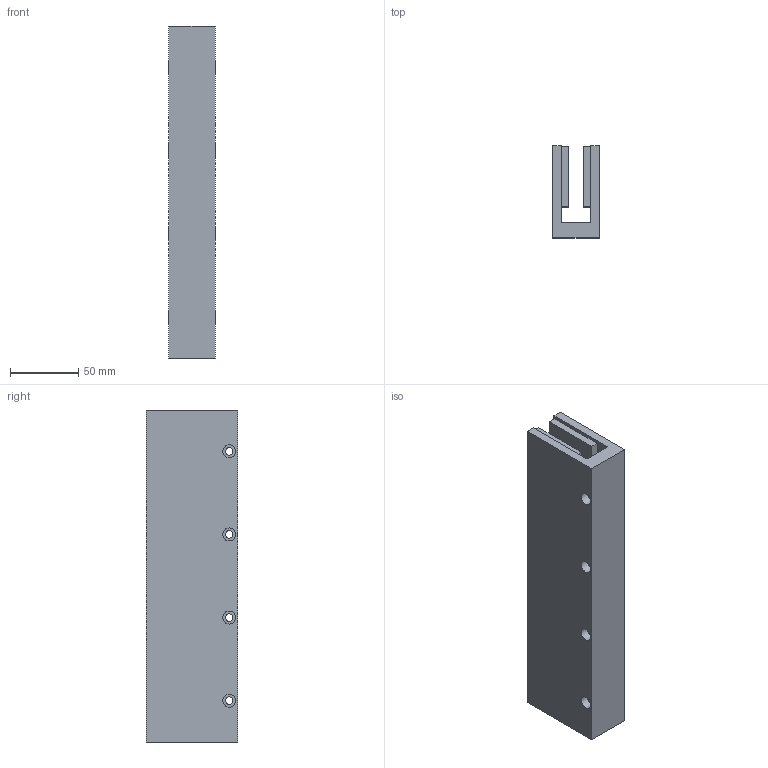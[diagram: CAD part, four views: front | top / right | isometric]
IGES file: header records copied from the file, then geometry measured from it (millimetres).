
Global section: file name: No Iges File Name specified; native system: Autodesk Inventor 2012; preprocessor: AutoDesk Inventor Iges Exporter R2012; author: je17857; date: 20120511.155624; units: inch
Bounding box: 34.29 x 67.31 x 243.59 mm (x, y, z)
Volume: 362299.6 mm3; surface area: 94047.1 mm2
Topology: 1 solids, 1 shells, 110 faces, 252 edges, 168 vertices
Faces by surface type: plane 98, revolution 12
